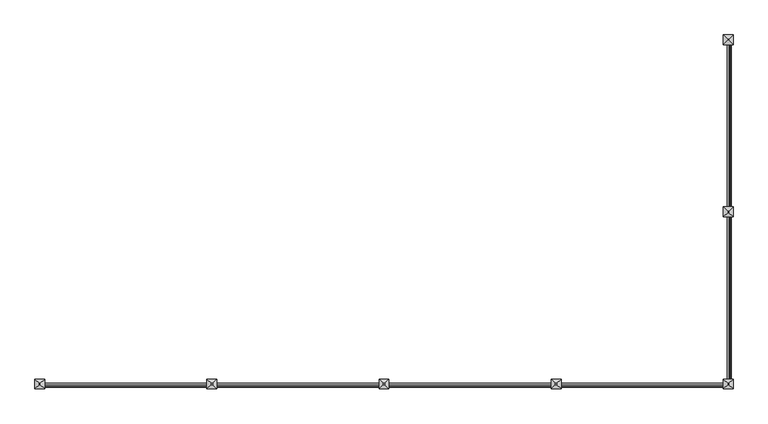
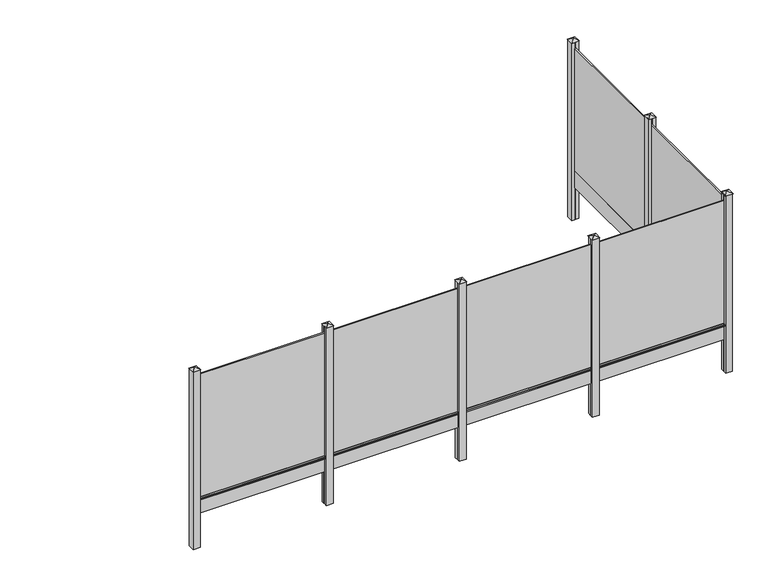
"""IFC4 building model written with IfcOpenShell, lengths in millimetres: railing geometry, Mehat - Railing - Plaque de Soubassement - Pour clôture aluminium - 192x25x3.5/2 cm."""

from ifc_helpers import new_model, si_unit, point, frame, frame_2d, origin, origin_with_axes, place, context, project, spatial, polyline, circle_curve, trimmed, segment, composite_curve, outline, extrude, faceted_brep, source, transform, mapped, element, save


def railing_d92462b5(model_context):
    return source(origin(), model_context, "Body", "SolidModel", [
        extrude(outline(polyline([(-40103.7483484, 18562.5056064), (-40120.7483484, 18562.5056064), (-40120.7483484, 20482.5056064), (-40103.7483484, 20482.5056064), (-40103.7483484, 18562.5056064)])), frame((0.0, 0.0, 250.0), z_axis=(0.0, 0.0, 1.0), x_axis=(1.0, 0.0, 0.0)), (0.0, 0.0, 1.0), 1900.0),
        extrude(outline(polyline([(-40102.2483484, 18562.5056064), (-40122.2483484, 18562.5056064), (-40122.2483484, 20482.5056064), (-40102.2483484, 20482.5056064), (-40102.2483484, 18562.5056064)])), origin_with_axes(), (0.0, 0.0, 1.0), 250.0),
        extrude(outline(composite_curve([segment(polyline([(210.0, -40102.2483484), (217.1937129, -40080.6672095)]), True, "CONTINUOUS"), segment(trimmed(circle_curve(frame_2d((221.9371294, -40082.2483484)), 5.0), [point((217.1937129, -40080.6672095))], [point((221.9371294, -40077.2483484))], False, "CARTESIAN"), True, "CONTINUOUS"), segment(polyline([(221.9371294, -40077.2483484), (238.0628706, -40077.2483484)]), True, "CONTINUOUS"), segment(trimmed(circle_curve(frame_2d((238.0628706, -40082.2483484)), 5.0), [point((238.0628706, -40077.2483484))], [point((242.8062871, -40080.6672095))], False, "CARTESIAN"), True, "CONTINUOUS"), segment(polyline([(242.8062871, -40080.6672095), (250.0, -40102.2483484), (210.0, -40102.2483484)]), True, "CONTINUOUS")], self_intersect=False)), frame((0.0, 18597.5056064, 0.0), z_axis=(0.0, 1.0, 0.0), x_axis=(0.0, 0.0, 1.0)), (0.0, 0.0, 1.0), 1850.0),
        extrude(outline(polyline([(-40062.2483484, 18497.5056064), (-40102.2483484, 18497.5056064), (-40102.2483484, 18532.5056064), (-40122.2483484, 18532.5056064), (-40122.2483484, 18497.5056064), (-40162.2483484, 18497.5056064), (-40162.2483484, 18597.5056064), (-40122.2483484, 18597.5056064), (-40122.2483484, 18562.5056064), (-40102.2483484, 18562.5056064), (-40102.2483484, 18597.5056064), (-40062.2483484, 18597.5056064), (-40062.2483484, 18497.5056064)])), frame((0.0, 0.0, -500.0), z_axis=(0.0, 0.0, 1.0), x_axis=(1.0, 0.0, 0.0)), (0.0, 0.0, 1.0), 2750.0),
        faceted_brep([(-40118.6528945, 18553.8556064, 2275.4), (-40118.6528945, 18541.1556064, 2275.4), (-40105.9528945, 18541.1556064, 2275.4), (-40105.9528945, 18553.8556064, 2275.4), (-40168.5983484, 18603.8556064, 2250.0), (-40055.8983484, 18603.8556064, 2250.0), (-40055.8983484, 18491.1556064, 2250.0), (-40168.5983484, 18491.1556064, 2250.0)], [[[0, 1, 2, 3]], [[4, 5, 6, 7]], [[4, 0, 3, 5]], [[5, 3, 2, 6]], [[6, 2, 1, 7]], [[7, 1, 0, 4]]]),
        extrude(outline(polyline([(-40103.7483484, 16612.5056064), (-40120.7483484, 16612.5056064), (-40120.7483484, 18532.5056064), (-40103.7483484, 18532.5056064), (-40103.7483484, 16612.5056064)])), frame((0.0, 0.0, 250.0), z_axis=(0.0, 0.0, 1.0), x_axis=(1.0, 0.0, 0.0)), (0.0, 0.0, 1.0), 1900.0),
        extrude(outline(polyline([(-40102.2483484, 16612.5056064), (-40122.2483484, 16612.5056064), (-40122.2483484, 18532.5056064), (-40102.2483484, 18532.5056064), (-40102.2483484, 16612.5056064)])), origin_with_axes(), (0.0, 0.0, 1.0), 250.0),
        extrude(outline(composite_curve([segment(polyline([(210.0, -40102.2483484), (217.1937129, -40080.6672095)]), True, "CONTINUOUS"), segment(trimmed(circle_curve(frame_2d((221.9371294, -40082.2483484)), 5.0), [point((217.1937129, -40080.6672095))], [point((221.9371294, -40077.2483484))], False, "CARTESIAN"), True, "CONTINUOUS"), segment(polyline([(221.9371294, -40077.2483484), (238.0628706, -40077.2483484)]), True, "CONTINUOUS"), segment(trimmed(circle_curve(frame_2d((238.0628706, -40082.2483484)), 5.0), [point((238.0628706, -40077.2483484))], [point((242.8062871, -40080.6672095))], False, "CARTESIAN"), True, "CONTINUOUS"), segment(polyline([(242.8062871, -40080.6672095), (250.0, -40102.2483484), (210.0, -40102.2483484)]), True, "CONTINUOUS")], self_intersect=False)), frame((0.0, 16647.5056064, 0.0), z_axis=(0.0, 1.0, 0.0), x_axis=(0.0, 0.0, 1.0)), (0.0, 0.0, 1.0), 1850.0),
        extrude(outline(polyline([(-42047.2483484, 16589.0056064), (-42047.2483484, 16606.0056064), (-40127.2483484, 16606.0056064), (-40127.2483484, 16589.0056064), (-42047.2483484, 16589.0056064)])), frame((0.0, 0.0, 250.0), z_axis=(0.0, 0.0, 1.0), x_axis=(1.0, 0.0, 0.0)), (0.0, 0.0, 1.0), 1900.0),
        extrude(outline(polyline([(-42047.2483484, 16587.5056064), (-42047.2483484, 16607.5056064), (-40127.2483484, 16607.5056064), (-40127.2483484, 16587.5056064), (-42047.2483484, 16587.5056064)])), origin_with_axes(), (0.0, 0.0, 1.0), 250.0),
        extrude(outline(composite_curve([segment(polyline([(16587.5056064, 210.0), (16565.9244675, 217.1937129)]), True, "CONTINUOUS"), segment(trimmed(circle_curve(frame_2d((16567.5056064, 221.9371294)), 5.0), [point((16565.9244675, 217.1937129))], [point((16562.5056064, 221.9371294))], False, "CARTESIAN"), True, "CONTINUOUS"), segment(polyline([(16562.5056064, 221.9371294), (16562.5056064, 238.0628706)]), True, "CONTINUOUS"), segment(trimmed(circle_curve(frame_2d((16567.5056064, 238.0628706)), 5.0), [point((16562.5056064, 238.0628706))], [point((16565.9244675, 242.8062871))], False, "CARTESIAN"), True, "CONTINUOUS"), segment(polyline([(16565.9244675, 242.8062871), (16587.5056064, 250.0), (16587.5056064, 210.0)]), True, "CONTINUOUS")], self_intersect=False)), frame((-42012.2483484, 0.0, 0.0), z_axis=(1.0, 0.0, 0.0), x_axis=(0.0, 1.0, 0.0)), (0.0, 0.0, 1.0), 1850.0),
        extrude(outline(polyline([(-42112.2483484, 16547.5056064), (-42112.2483484, 16587.5056064), (-42077.2483484, 16587.5056064), (-42077.2483484, 16607.5056064), (-42112.2483484, 16607.5056064), (-42112.2483484, 16647.5056064), (-42012.2483484, 16647.5056064), (-42012.2483484, 16607.5056064), (-42047.2483484, 16607.5056064), (-42047.2483484, 16587.5056064), (-42012.2483484, 16587.5056064), (-42012.2483484, 16547.5056064), (-42112.2483484, 16547.5056064)])), frame((0.0, 0.0, -500.0), z_axis=(0.0, 0.0, 1.0), x_axis=(1.0, 0.0, 0.0)), (0.0, 0.0, 1.0), 2750.0),
        faceted_brep([(-42055.8983484, 16603.9101525, 2275.4), (-42068.5983484, 16603.9101525, 2275.4), (-42068.5983484, 16591.2101525, 2275.4), (-42055.8983484, 16591.2101525, 2275.4), (-42005.8983484, 16653.8556064, 2250.0), (-42005.8983484, 16541.1556064, 2250.0), (-42118.5983484, 16541.1556064, 2250.0), (-42118.5983484, 16653.8556064, 2250.0)], [[[0, 1, 2, 3]], [[4, 5, 6, 7]], [[4, 0, 3, 5]], [[5, 3, 2, 6]], [[6, 2, 1, 7]], [[7, 1, 0, 4]]]),
        extrude(outline(polyline([(-43997.2483484, 16589.0056064), (-43997.2483484, 16606.0056064), (-42077.2483484, 16606.0056064), (-42077.2483484, 16589.0056064), (-43997.2483484, 16589.0056064)])), frame((0.0, 0.0, 250.0), z_axis=(0.0, 0.0, 1.0), x_axis=(1.0, 0.0, 0.0)), (0.0, 0.0, 1.0), 1900.0),
        extrude(outline(polyline([(-43997.2483484, 16587.5056064), (-43997.2483484, 16607.5056064), (-42077.2483484, 16607.5056064), (-42077.2483484, 16587.5056064), (-43997.2483484, 16587.5056064)])), origin_with_axes(), (0.0, 0.0, 1.0), 250.0),
        extrude(outline(composite_curve([segment(polyline([(16587.5056064, 210.0), (16565.9244675, 217.1937129)]), True, "CONTINUOUS"), segment(trimmed(circle_curve(frame_2d((16567.5056064, 221.9371294)), 5.0), [point((16565.9244675, 217.1937129))], [point((16562.5056064, 221.9371294))], False, "CARTESIAN"), True, "CONTINUOUS"), segment(polyline([(16562.5056064, 221.9371294), (16562.5056064, 238.0628706)]), True, "CONTINUOUS"), segment(trimmed(circle_curve(frame_2d((16567.5056064, 238.0628706)), 5.0), [point((16562.5056064, 238.0628706))], [point((16565.9244675, 242.8062871))], False, "CARTESIAN"), True, "CONTINUOUS"), segment(polyline([(16565.9244675, 242.8062871), (16587.5056064, 250.0), (16587.5056064, 210.0)]), True, "CONTINUOUS")], self_intersect=False)), frame((-43962.2483484, 0.0, 0.0), z_axis=(1.0, 0.0, 0.0), x_axis=(0.0, 1.0, 0.0)), (0.0, 0.0, 1.0), 1850.0),
        extrude(outline(polyline([(-44062.2483484, 16547.5056064), (-44062.2483484, 16587.5056064), (-44027.2483484, 16587.5056064), (-44027.2483484, 16607.5056064), (-44062.2483484, 16607.5056064), (-44062.2483484, 16647.5056064), (-43962.2483484, 16647.5056064), (-43962.2483484, 16607.5056064), (-43997.2483484, 16607.5056064), (-43997.2483484, 16587.5056064), (-43962.2483484, 16587.5056064), (-43962.2483484, 16547.5056064), (-44062.2483484, 16547.5056064)])), frame((0.0, 0.0, -500.0), z_axis=(0.0, 0.0, 1.0), x_axis=(1.0, 0.0, 0.0)), (0.0, 0.0, 1.0), 2750.0),
        faceted_brep([(-44005.8983484, 16603.9101525, 2275.4), (-44018.5983484, 16603.9101525, 2275.4), (-44018.5983484, 16591.2101525, 2275.4), (-44005.8983484, 16591.2101525, 2275.4), (-43955.8983484, 16653.8556064, 2250.0), (-43955.8983484, 16541.1556064, 2250.0), (-44068.5983484, 16541.1556064, 2250.0), (-44068.5983484, 16653.8556064, 2250.0)], [[[0, 1, 2, 3]], [[4, 5, 6, 7]], [[4, 0, 3, 5]], [[5, 3, 2, 6]], [[6, 2, 1, 7]], [[7, 1, 0, 4]]]),
        extrude(outline(polyline([(-45947.2483484, 16589.0056064), (-45947.2483484, 16606.0056064), (-44027.2483484, 16606.0056064), (-44027.2483484, 16589.0056064), (-45947.2483484, 16589.0056064)])), frame((0.0, 0.0, 250.0), z_axis=(0.0, 0.0, 1.0), x_axis=(1.0, 0.0, 0.0)), (0.0, 0.0, 1.0), 1900.0),
        extrude(outline(polyline([(-45947.2483484, 16587.5056064), (-45947.2483484, 16607.5056064), (-44027.2483484, 16607.5056064), (-44027.2483484, 16587.5056064), (-45947.2483484, 16587.5056064)])), origin_with_axes(), (0.0, 0.0, 1.0), 250.0),
        extrude(outline(composite_curve([segment(polyline([(16587.5056064, 210.0), (16565.9244675, 217.1937129)]), True, "CONTINUOUS"), segment(trimmed(circle_curve(frame_2d((16567.5056064, 221.9371294)), 5.0), [point((16565.9244675, 217.1937129))], [point((16562.5056064, 221.9371294))], False, "CARTESIAN"), True, "CONTINUOUS"), segment(polyline([(16562.5056064, 221.9371294), (16562.5056064, 238.0628706)]), True, "CONTINUOUS"), segment(trimmed(circle_curve(frame_2d((16567.5056064, 238.0628706)), 5.0), [point((16562.5056064, 238.0628706))], [point((16565.9244675, 242.8062871))], False, "CARTESIAN"), True, "CONTINUOUS"), segment(polyline([(16565.9244675, 242.8062871), (16587.5056064, 250.0), (16587.5056064, 210.0)]), True, "CONTINUOUS")], self_intersect=False)), frame((-45912.2483484, 0.0, 0.0), z_axis=(1.0, 0.0, 0.0), x_axis=(0.0, 1.0, 0.0)), (0.0, 0.0, 1.0), 1850.0),
        extrude(outline(polyline([(-46012.2483484, 16547.5056064), (-46012.2483484, 16587.5056064), (-45977.2483484, 16587.5056064), (-45977.2483484, 16607.5056064), (-46012.2483484, 16607.5056064), (-46012.2483484, 16647.5056064), (-45912.2483484, 16647.5056064), (-45912.2483484, 16607.5056064), (-45947.2483484, 16607.5056064), (-45947.2483484, 16587.5056064), (-45912.2483484, 16587.5056064), (-45912.2483484, 16547.5056064), (-46012.2483484, 16547.5056064)])), frame((0.0, 0.0, -500.0), z_axis=(0.0, 0.0, 1.0), x_axis=(1.0, 0.0, 0.0)), (0.0, 0.0, 1.0), 2750.0),
        faceted_brep([(-45955.8983484, 16603.9101525, 2275.4), (-45968.5983484, 16603.9101525, 2275.4), (-45968.5983484, 16591.2101525, 2275.4), (-45955.8983484, 16591.2101525, 2275.4), (-45905.8983484, 16653.8556064, 2250.0), (-45905.8983484, 16541.1556064, 2250.0), (-46018.5983484, 16541.1556064, 2250.0), (-46018.5983484, 16653.8556064, 2250.0)], [[[0, 1, 2, 3]], [[4, 5, 6, 7]], [[4, 0, 3, 5]], [[5, 3, 2, 6]], [[6, 2, 1, 7]], [[7, 1, 0, 4]]]),
        extrude(outline(polyline([(-47897.2483484, 16589.0056064), (-47897.2483484, 16606.0056064), (-45977.2483484, 16606.0056064), (-45977.2483484, 16589.0056064), (-47897.2483484, 16589.0056064)])), frame((0.0, 0.0, 250.0), z_axis=(0.0, 0.0, 1.0), x_axis=(1.0, 0.0, 0.0)), (0.0, 0.0, 1.0), 1900.0),
        extrude(outline(polyline([(-47897.2483484, 16587.5056064), (-47897.2483484, 16607.5056064), (-45977.2483484, 16607.5056064), (-45977.2483484, 16587.5056064), (-47897.2483484, 16587.5056064)])), origin_with_axes(), (0.0, 0.0, 1.0), 250.0),
        extrude(outline(composite_curve([segment(polyline([(16587.5056064, 210.0), (16565.9244675, 217.1937129)]), True, "CONTINUOUS"), segment(trimmed(circle_curve(frame_2d((16567.5056064, 221.9371294)), 5.0), [point((16565.9244675, 217.1937129))], [point((16562.5056064, 221.9371294))], False, "CARTESIAN"), True, "CONTINUOUS"), segment(polyline([(16562.5056064, 221.9371294), (16562.5056064, 238.0628706)]), True, "CONTINUOUS"), segment(trimmed(circle_curve(frame_2d((16567.5056064, 238.0628706)), 5.0), [point((16562.5056064, 238.0628706))], [point((16565.9244675, 242.8062871))], False, "CARTESIAN"), True, "CONTINUOUS"), segment(polyline([(16565.9244675, 242.8062871), (16587.5056064, 250.0), (16587.5056064, 210.0)]), True, "CONTINUOUS")], self_intersect=False)), frame((-47862.2483484, 0.0, 0.0), z_axis=(1.0, 0.0, 0.0), x_axis=(0.0, 1.0, 0.0)), (0.0, 0.0, 1.0), 1850.0),
        extrude(outline(polyline([(-40162.2483484, 16547.5056064), (-40162.2483484, 16587.5056064), (-40127.2483484, 16587.5056064), (-40127.2483484, 16607.5056064), (-40162.2483484, 16607.5056064), (-40162.2483484, 16647.5056064), (-40122.2483484, 16647.5056064), (-40122.2483484, 16612.5056064), (-40102.2483484, 16612.5056064), (-40102.2483484, 16647.5056064), (-40062.2483484, 16647.5056064), (-40062.2483484, 16547.5056064), (-40162.2483484, 16547.5056064)])), frame((0.0, 0.0, -500.0), z_axis=(0.0, 0.0, 1.0), x_axis=(1.0, 0.0, 0.0)), (0.0, 0.0, 1.0), 2750.0),
        faceted_brep([(-40105.8983484, 16603.9101525, 2275.4), (-40118.5983484, 16603.9101525, 2275.4), (-40118.5983484, 16591.2101525, 2275.4), (-40105.8983484, 16591.2101525, 2275.4), (-40055.8983484, 16653.8556064, 2250.0), (-40055.8983484, 16541.1556064, 2250.0), (-40168.5983484, 16541.1556064, 2250.0), (-40168.5983484, 16653.8556064, 2250.0)], [[[0, 1, 2, 3]], [[4, 5, 6, 7]], [[4, 0, 3, 5]], [[5, 3, 2, 6]], [[6, 2, 1, 7]], [[7, 1, 0, 4]]]),
        extrude(outline(polyline([(-40062.2483484, 20447.5056064), (-40102.2483484, 20447.5056064), (-40102.2483484, 20482.5056064), (-40122.2483484, 20482.5056064), (-40122.2483484, 20447.5056064), (-40162.2483484, 20447.5056064), (-40162.2483484, 20547.5056064), (-40062.2483484, 20547.5056064), (-40062.2483484, 20447.5056064)])), frame((0.0, 0.0, -500.0), z_axis=(0.0, 0.0, 1.0), x_axis=(1.0, 0.0, 0.0)), (0.0, 0.0, 1.0), 2750.0),
        faceted_brep([(-40118.6528945, 20503.8556064, 2275.4), (-40118.6528945, 20491.1556064, 2275.4), (-40105.9528945, 20491.1556064, 2275.4), (-40105.9528945, 20503.8556064, 2275.4), (-40168.5983484, 20553.8556064, 2250.0), (-40055.8983484, 20553.8556064, 2250.0), (-40055.8983484, 20441.1556064, 2250.0), (-40168.5983484, 20441.1556064, 2250.0)], [[[0, 1, 2, 3]], [[4, 5, 6, 7]], [[4, 0, 3, 5]], [[5, 3, 2, 6]], [[6, 2, 1, 7]], [[7, 1, 0, 4]]]),
        extrude(outline(polyline([(-47962.2483484, 16547.5056064), (-47962.2483484, 16647.5056064), (-47862.2483484, 16647.5056064), (-47862.2483484, 16607.5056064), (-47897.2483484, 16607.5056064), (-47897.2483484, 16587.5056064), (-47862.2483484, 16587.5056064), (-47862.2483484, 16547.5056064), (-47962.2483484, 16547.5056064)])), frame((0.0, 0.0, -500.0), z_axis=(0.0, 0.0, 1.0), x_axis=(1.0, 0.0, 0.0)), (0.0, 0.0, 1.0), 2750.0),
        faceted_brep([(-47905.8983484, 16603.9101525, 2275.4), (-47918.5983484, 16603.9101525, 2275.4), (-47918.5983484, 16591.2101525, 2275.4), (-47905.8983484, 16591.2101525, 2275.4), (-47855.8983484, 16653.8556064, 2250.0), (-47855.8983484, 16541.1556064, 2250.0), (-47968.5983484, 16541.1556064, 2250.0), (-47968.5983484, 16653.8556064, 2250.0)], [[[0, 1, 2, 3]], [[4, 5, 6, 7]], [[4, 0, 3, 5]], [[5, 3, 2, 6]], [[6, 2, 1, 7]], [[7, 1, 0, 4]]]),
    ])


if __name__ == "__main__":
    model = new_model("IFC4")
    model_context = context("Model", 3, world=origin())
    ifc_project = project(units=[si_unit("LENGTHUNIT", "METRE", prefix="MILLI")], contexts=[model_context])
    site = spatial("IfcSite", under=ifc_project)
    building = spatial("IfcBuilding", under=site)
    placement = place(None, origin())
    railing_shape = railing_d92462b5(model_context)
    element("IfcRailing", 1, ObjectType="Mehat - Railing - Plaque de Soubassement - Pour clôture aluminium - 192x25x3.5/2 cm", at=placement, inside=building, context=model_context, shape_type="MappedRepresentation", body=[
        mapped(railing_shape, transform((0.0, 0.0, 0.0), x_axis=(1.0, 0.0, 0.0), y_axis=(0.0, 1.0, 0.0), z_axis=(0.0, 0.0, 1.0))),
    ])
    save(model, "model.ifc")
